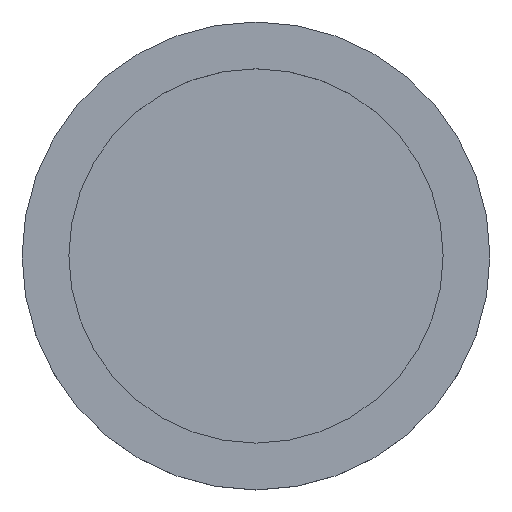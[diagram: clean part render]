
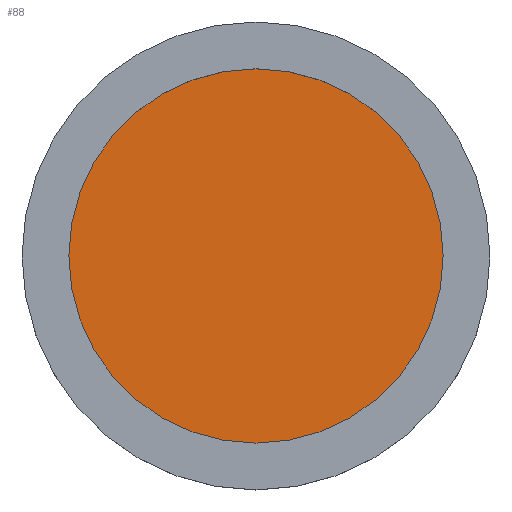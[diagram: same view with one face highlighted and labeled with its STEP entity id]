
A CAD part, top view. The second image highlights one B-rep face of the part: STEP entity #88.
In plain terms, the highlighted planar face has unit normal (0, 0, 1).
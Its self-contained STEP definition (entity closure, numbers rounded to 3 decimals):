
#9 = DIRECTION ( 'NONE',  ( 1., 0., 0. ) ) ;
#20 = CARTESIAN_POINT ( 'NONE',  ( 0., 0., 0.5 ) ) ;
#28 = AXIS2_PLACEMENT_3D ( 'NONE', #82, #46, #9 ) ;
#35 = AXIS2_PLACEMENT_3D ( 'NONE', #20, #86, #155 ) ;
#46 = DIRECTION ( 'NONE',  ( 0., 0., 1. ) ) ;
#64 = CARTESIAN_POINT ( 'NONE',  ( 0., 0., 0.5 ) ) ;
#82 = CARTESIAN_POINT ( 'NONE',  ( 0., 0., 0.5 ) ) ;
#86 = DIRECTION ( 'NONE',  ( 0., 0., 1. ) ) ;
#88 = ADVANCED_FACE ( 'NONE', ( #138 ), #167, .T. ) ;
#108 = EDGE_LOOP ( 'NONE', ( #184, #120 ) ) ;
#120 = ORIENTED_EDGE ( 'NONE', *, *, #186, .T. ) ;
#124 = AXIS2_PLACEMENT_3D ( 'NONE', #64, #208, #212 ) ;
#136 = VERTEX_POINT ( 'NONE', #163 ) ;
#138 = FACE_OUTER_BOUND ( 'NONE', #108, .T. ) ;
#155 = DIRECTION ( 'NONE',  ( 1., 0., 0. ) ) ;
#163 = CARTESIAN_POINT ( 'NONE',  ( -4., 0., 0.5 ) ) ;
#167 = PLANE ( 'NONE',  #35 ) ;
#184 = ORIENTED_EDGE ( 'NONE', *, *, #195, .T. ) ;
#186 = EDGE_CURVE ( 'NONE', #136, #188, #201, .T. ) ;
#188 = VERTEX_POINT ( 'NONE', #191 ) ;
#191 = CARTESIAN_POINT ( 'NONE',  ( 4., 0., 0.5 ) ) ;
#195 = EDGE_CURVE ( 'NONE', #188, #136, #218, .T. ) ;
#201 = CIRCLE ( 'NONE', #28, 4. ) ;
#208 = DIRECTION ( 'NONE',  ( 0., 0., 1. ) ) ;
#212 = DIRECTION ( 'NONE',  ( 1., 0., 0. ) ) ;
#218 = CIRCLE ( 'NONE', #124, 4. ) ;
